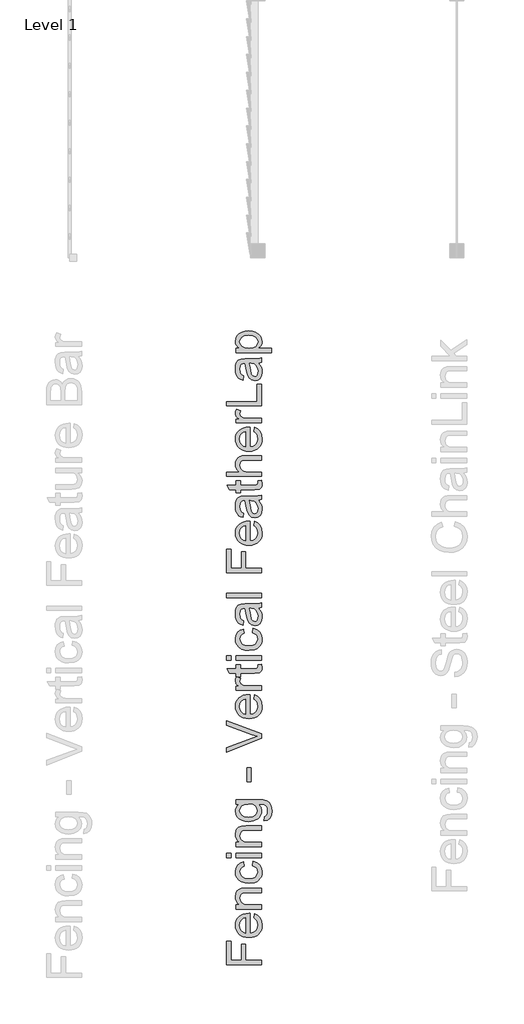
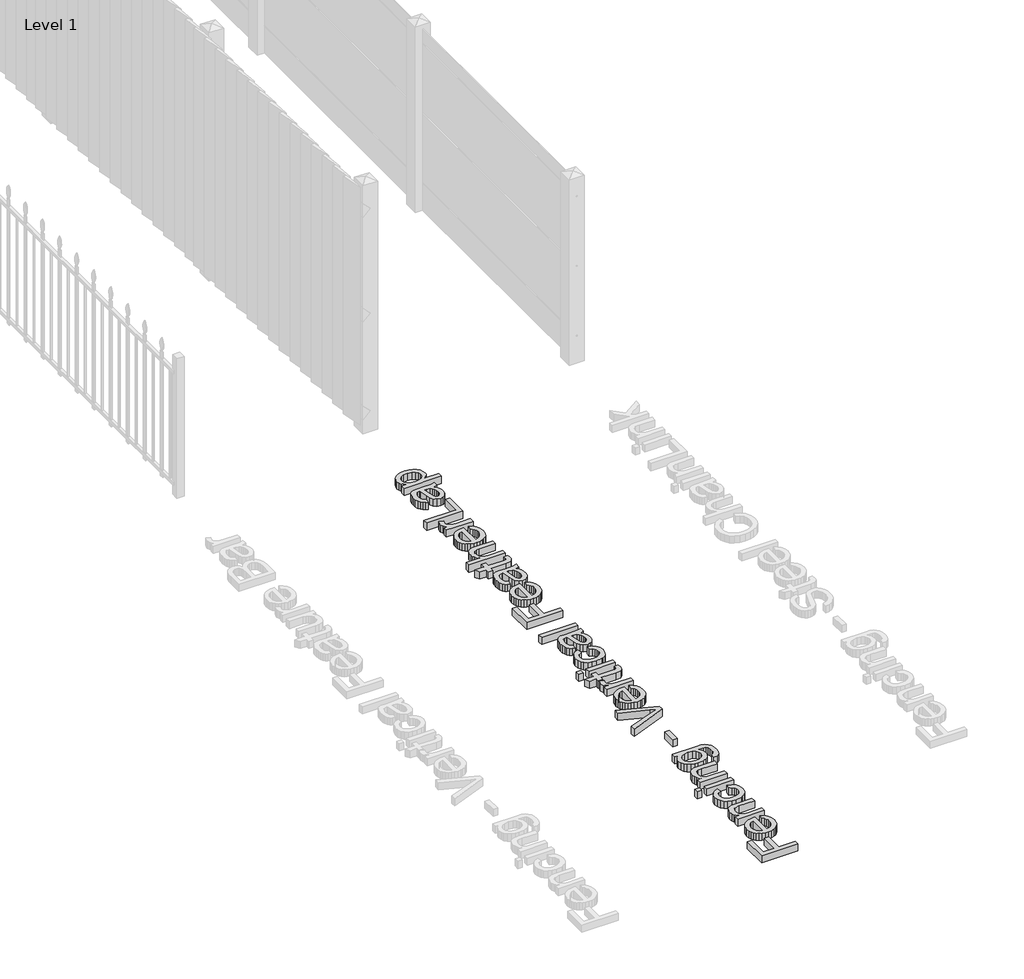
# One storey, part 4 of 7: 1 proxy.
"""IFC4 building model written with IfcOpenShell, lengths in millimetres."""

from ifc_helpers import new_model, si_unit, origin, origin_with_axes, place, context, project, spatial, polyline, outline, extrude, element, save

model = new_model("IFC4")

# Units and contexts
model_context = context("Model", 3, world=origin())
ifc_project = project(units=[si_unit("LENGTHUNIT", "METRE", prefix="MILLI")], contexts=[model_context])

# Site, building, storey
site = spatial("IfcSite", under=ifc_project)
building = spatial("IfcBuilding", under=site)
storey = spatial("IfcBuildingStorey", under=building, Name="Level 1", Elevation=0.0)

# Proxy
placement = place(None, origin())
element("IfcBuildingElementProxy", 1, Name="250mm Arial", ObjectType="250mm Arial", at=placement, inside=storey, context=model_context, shape_type="SweptSolid", body=[
    extrude(outline(polyline([(47525.2373714, -61450.7813985), (47279.0835253, -61450.7813985), (47279.0835253, -61285.3967831), (47309.852756, -61285.3967831), (47309.852756, -61420.0121677), (47382.9296791, -61420.0121677), (47382.9296791, -61304.6275523), (47413.6989099, -61304.6275523), (47413.6989099, -61420.0121677), (47525.2373714, -61420.0121677), (47525.2373714, -61450.7813985)])), origin_with_axes(), (0.0, 0.0, 1.0), 50.8),
    extrude(outline(polyline([(47471.3912176, -61120.3727446), (47475.2373714, -61090.2044754), (47497.9687416, -61101.0743672), (47514.9609291, -61118.4196196), (47525.5528762, -61141.8496076), (47529.0835253, -61170.9737062), (47527.5604634, -61190.0655031), (47522.9912777, -61207.0764706), (47515.3759682, -61222.0066088), (47504.7145349, -61234.8559177), (47491.3037026, -61245.1887002), (47475.440196, -61252.5692591), (47457.1240151, -61256.9975944), (47436.3551599, -61258.4737062), (47414.8820529, -61256.9825704), (47395.9555205, -61252.5091629), (47379.5755625, -61245.0534838), (47365.7421791, -61234.6155331), (47354.752095, -61221.8000283), (47346.9020349, -61207.211687), (47342.1919988, -61190.8505091), (47340.6219868, -61172.7164946), (47342.1882428, -61155.1665397), (47346.8870109, -61139.2955211), (47354.7182909, -61125.1034388), (47365.682083, -61112.5902927), (47379.4854183, -61102.3758246), (47395.8353282, -61095.0797759), (47414.7318125, -61090.7021467), (47436.1748714, -61089.242937), (47444.4681407, -61089.4232254), (47444.4681407, -61227.7044754), (47467.4999916, -61222.3784538), (47484.432083, -61210.0061581), (47494.8437416, -61192.1500884), (47498.3142945, -61170.3727446), (47496.7067224, -61153.9965427), (47491.884006, -61140.2044754), (47483.5456647, -61128.9965427), (47471.3912176, -61120.3727446)]), holes=[polyline([(47413.6989099, -61227.7044754), (47413.6989099, -61120.0121677), (47397.4429003, -61124.1738264), (47385.8142945, -61132.3318793), (47374.9969868, -61150.2705812), (47371.3912176, -61172.836687), (47374.268321, -61193.577372), (47382.899631, -61210.727312), (47396.3536575, -61222.6488865), (47413.6989099, -61227.7044754)])]), origin_with_axes(), (0.0, 0.0, 1.0), 50.8),
    extrude(outline(polyline([(47525.2373714, -61058.4737062), (47344.4681407, -61058.4737062), (47344.4681407, -61027.7044754), (47369.7085253, -61027.7044754), (47356.9831647, -61017.014872), (47347.8936214, -61004.1768312), (47342.4398955, -60989.1903528), (47340.6219868, -60972.055437), (47346.4813618, -60942.9989466), (47353.2572032, -60931.4154129), (47361.8659772, -60923.1672158), (47384.4921791, -60913.9424562), (47414.2397753, -60912.31986), (47525.2373714, -60912.31986), (47525.2373714, -60943.0890908), (47418.3864099, -60943.0890908), (47391.1628522, -60946.6347639), (47383.0573835, -60951.5401124), (47376.7698234, -60959.164812), (47371.3912176, -60980.28861), (47374.4110493, -60998.3099442), (47383.4705445, -61013.6720235), (47400.9735493, -61024.1963624), (47429.3239099, -61027.7044754), (47525.2373714, -61027.7044754), (47525.2373714, -61058.4737062)])), origin_with_axes(), (0.0, 0.0, 1.0), 50.8),
    extrude(outline(polyline([(47459.852756, -60754.6275523), (47463.6989099, -60723.8583216), (47491.065196, -60732.4370475), (47511.7457849, -60748.5578408), (47524.7490902, -60770.7032735), (47529.0835253, -60797.3559177), (47527.5717314, -60814.6129039), (47523.0363498, -60830.0857855), (47515.4773804, -60843.7745626), (47504.8948234, -60855.679235), (47491.487747, -60865.3152777), (47475.45522, -60872.1981653), (47435.5138137, -60877.7044754), (47408.1325036, -60875.3532134), (47384.4020349, -60868.2994273), (47365.2388738, -60856.430437), (47351.5594868, -60839.633562), (47343.3563618, -60819.5389105), (47340.6219868, -60797.7765908), (47344.3779964, -60771.7774922), (47355.6460253, -60750.991735), (47373.8251118, -60736.0803769), (47398.3142945, -60727.7044754), (47402.1604484, -60758.4737062), (47388.73647, -60764.0551365), (47379.1135734, -60772.7465427), (47373.3218065, -60784.0671557), (47371.3912176, -60797.5362062), (47375.1922993, -60817.4205211), (47386.5955445, -60833.2032735), (47406.2169387, -60843.5022519), (47434.6724676, -60846.9352446), (47463.5111094, -60843.577372), (47483.2001118, -60833.5037543), (47494.5357488, -60818.0064586), (47498.3142945, -60798.3775523), (47495.9555205, -60782.4445595), (47488.8791984, -60769.3811581), (47476.9050397, -60759.8784538), (47459.852756, -60754.6275523)])), origin_with_axes(), (0.0, 0.0, 1.0), 50.8),
    extrude(outline(polyline([(47309.852756, -60696.9352446), (47279.0835253, -60696.9352446), (47279.0835253, -60666.1660139), (47309.852756, -60666.1660139), (47309.852756, -60696.9352446)])), origin_with_axes(), (0.0, 0.0, 1.0), 50.8),
    extrude(outline(polyline([(47525.2373714, -60696.9352446), (47344.4681407, -60696.9352446), (47344.4681407, -60666.1660139), (47525.2373714, -60666.1660139), (47525.2373714, -60696.9352446)])), origin_with_axes(), (0.0, 0.0, 1.0), 50.8),
    extrude(outline(polyline([(47525.2373714, -60620.0121677), (47344.4681407, -60620.0121677), (47344.4681407, -60589.242937), (47369.7085253, -60589.242937), (47356.9831647, -60578.5533336), (47347.8936214, -60565.7152927), (47342.4398955, -60550.7288144), (47340.6219868, -60533.5938985), (47346.4813618, -60504.5374081), (47353.2572032, -60492.9538745), (47361.8659772, -60484.7056773), (47384.4921791, -60475.4809177), (47414.2397753, -60473.8583216), (47525.2373714, -60473.8583216), (47525.2373714, -60504.6275523), (47418.3864099, -60504.6275523), (47391.1628522, -60508.1732254), (47383.0573835, -60513.078574), (47376.7698234, -60520.7032735), (47371.3912176, -60541.8270716), (47374.4110493, -60559.8484057), (47383.4705445, -60575.210485), (47400.9735493, -60585.734824), (47429.3239099, -60589.242937), (47525.2373714, -60589.242937), (47525.2373714, -60620.0121677)])), origin_with_axes(), (0.0, 0.0, 1.0), 50.8),
    extrude(outline(polyline([(47540.6219868, -60439.242937), (47544.4681407, -60408.4737062), (47554.0835253, -60405.0782735), (47560.6941022, -60398.4977446), (47565.8323234, -60385.5620475), (47567.5450637, -60368.6299562), (47565.6069628, -60350.571062), (47559.7926599, -60337.1395716), (47550.477756, -60327.8246677), (47538.0378522, -60322.1155331), (47502.1604484, -60320.0121677), (47519.4681407, -60341.6768312), (47525.2373714, -60368.0890908), (47523.5584351, -60384.959208), (47518.5216262, -60399.812348), (47510.1269447, -60412.6485109), (47498.3743907, -60423.4676966), (47468.837131, -60438.1837422), (47433.9513137, -60443.0890908), (47409.1090661, -60440.8880692), (47386.2650157, -60434.2850043), (47366.9065421, -60423.5127687), (47352.5210253, -60408.804235), (47343.5967464, -60390.6627086), (47340.6219868, -60369.5914946), (47342.3046791, -60355.2022218), (47347.352756, -60342.1425764), (47355.7662176, -60330.4125583), (47367.5450637, -60320.0121677), (47344.4681407, -60320.0121677), (47344.4681407, -60289.242937), (47500.5378522, -60289.242937), (47536.5730085, -60291.3463023), (47560.3034772, -60297.6563985), (47576.0411575, -60308.5262903), (47588.0979484, -60324.3090427), (47595.760208, -60344.6591028), (47598.3142945, -60369.2309177), (47594.7160373, -60397.859223), (47583.9212657, -60420.4027927), (47565.8999315, -60434.8634297), (47540.6219868, -60439.242937)]), holes=[polyline([(47431.8479484, -60412.31986), (47460.0706046, -60409.0371076), (47479.4741503, -60399.1888504), (47490.7196431, -60384.3826605), (47494.4681407, -60366.22611), (47490.7421791, -60348.2047759), (47479.5642945, -60333.3234658), (47460.4086455, -60323.3399922), (47432.7493907, -60320.0121677), (47406.0742104, -60323.4376485), (47386.8659772, -60333.7140908), (47375.2599075, -60348.8132495), (47371.3912176, -60366.7068793), (47375.1998113, -60384.2774922), (47386.6255926, -60399.008562), (47405.548369, -60408.9920355), (47431.8479484, -60412.31986)])]), origin_with_axes(), (0.0, 0.0, 1.0), 50.8),
    extrude(outline(polyline([(47452.1604484, -60162.31986), (47421.3912176, -60162.31986), (47421.3912176, -60066.1660139), (47452.1604484, -60066.1660139), (47452.1604484, -60162.31986)])), origin_with_axes(), (0.0, 0.0, 1.0), 50.8),
    extrude(outline(polyline([(47525.2373714, -59858.8342831), (47279.0835253, -59956.7910139), (47279.0835253, -59923.8583216), (47456.4272753, -59858.2934177), (47496.3912176, -59845.0121677), (47456.4272753, -59831.9112062), (47279.0835253, -59766.1660139), (47279.0835253, -59733.2333216), (47525.2373714, -59827.0434177), (47525.2373714, -59858.8342831)])), origin_with_axes(), (0.0, 0.0, 1.0), 50.8),
    extrude(outline(polyline([(47471.3912176, -59581.9112062), (47475.2373714, -59551.742937), (47497.9687416, -59562.6128288), (47514.9609291, -59579.9580812), (47525.5528762, -59603.3880692), (47529.0835253, -59632.5121677), (47527.5604634, -59651.6039646), (47522.9912777, -59668.6149321), (47515.3759682, -59683.5450704), (47504.7145349, -59696.3943793), (47491.3037026, -59706.7271617), (47475.440196, -59714.1077206), (47457.1240151, -59718.5360559), (47436.3551599, -59720.0121677), (47414.8820529, -59718.5210319), (47395.9555205, -59714.0476245), (47379.5755625, -59706.5919454), (47365.7421791, -59696.1539946), (47354.752095, -59683.3384898), (47346.9020349, -59668.7501485), (47342.1919988, -59652.3889706), (47340.6219868, -59634.2549562), (47342.1882428, -59616.7050013), (47346.8870109, -59600.8339826), (47354.7182909, -59586.6419003), (47365.682083, -59574.1287543), (47379.4854183, -59563.9142861), (47395.8353282, -59556.6182374), (47414.7318125, -59552.2406082), (47436.1748714, -59550.7813985), (47444.4681407, -59550.961687), (47444.4681407, -59689.242937), (47467.4999916, -59683.9169153), (47484.432083, -59671.5446196), (47494.8437416, -59653.6885499), (47498.3142945, -59631.9112062), (47496.7067224, -59615.5350043), (47491.884006, -59601.742937), (47483.5456647, -59590.5350043), (47471.3912176, -59581.9112062)]), holes=[polyline([(47413.6989099, -59689.242937), (47413.6989099, -59581.5506293), (47397.4429003, -59585.7122879), (47385.8142945, -59593.8703408), (47374.9969868, -59611.8090427), (47371.3912176, -59634.3751485), (47374.268321, -59655.1158336), (47382.899631, -59672.2657735), (47396.3536575, -59684.187348), (47413.6989099, -59689.242937)])]), origin_with_axes(), (0.0, 0.0, 1.0), 50.8),
    extrude(outline(polyline([(47525.2373714, -59520.0121677), (47344.4681407, -59520.0121677), (47344.4681407, -59493.0890908), (47371.2109291, -59493.0890908), (47355.7061214, -59483.1431773), (47346.571506, -59473.9785139), (47340.6219868, -59454.7477446), (47342.9957849, -59439.4232254), (47350.1171791, -59423.8583216), (47377.7013137, -59434.1347639), (47371.3912176, -59455.7693793), (47372.9086455, -59464.9565788), (47377.4609291, -59473.1672158), (47394.2878522, -59484.2549562), (47430.2253522, -59489.242937), (47525.2373714, -59489.242937), (47525.2373714, -59520.0121677)])), origin_with_axes(), (0.0, 0.0, 1.0), 50.8),
    extrude(outline(polyline([(47499.5763137, -59339.242937), (47526.1388137, -59335.3967831), (47529.0835253, -59358.41361), (47527.806482, -59373.1822398), (47523.9753522, -59384.19486), (47510.5739099, -59397.055437), (47475.6580445, -59400.7813985), (47375.2373714, -59400.7813985), (47375.2373714, -59423.8583216), (47344.4681407, -59423.8583216), (47344.4681407, -59400.7813985), (47300.5378522, -59400.7813985), (47282.4489099, -59370.0121677), (47344.4681407, -59370.0121677), (47344.4681407, -59339.242937), (47375.2373714, -59339.242937), (47375.2373714, -59370.0121677), (47474.7566022, -59370.0121677), (47490.6219868, -59368.3895716), (47496.2409772, -59363.1311581), (47498.3142945, -59352.6443793), (47499.5763137, -59339.242937)])), origin_with_axes(), (0.0, 0.0, 1.0), 50.8),
    extrude(outline(polyline([(47309.852756, -59308.4737062), (47279.0835253, -59308.4737062), (47279.0835253, -59277.7044754), (47309.852756, -59277.7044754), (47309.852756, -59308.4737062)])), origin_with_axes(), (0.0, 0.0, 1.0), 50.8),
    extrude(outline(polyline([(47525.2373714, -59308.4737062), (47344.4681407, -59308.4737062), (47344.4681407, -59277.7044754), (47525.2373714, -59277.7044754), (47525.2373714, -59308.4737062)])), origin_with_axes(), (0.0, 0.0, 1.0), 50.8),
    extrude(outline(polyline([(47459.852756, -59116.1660139), (47463.6989099, -59085.3967831), (47491.065196, -59093.9755091), (47511.7457849, -59110.0963023), (47524.7490902, -59132.241735), (47529.0835253, -59158.8943793), (47527.5717314, -59176.1513654), (47523.0363498, -59191.624247), (47515.4773804, -59205.3130241), (47504.8948234, -59217.2176966), (47491.487747, -59226.8537392), (47475.45522, -59233.7366269), (47435.5138137, -59239.242937), (47408.1325036, -59236.8916749), (47384.4020349, -59229.8378889), (47365.2388738, -59217.9688985), (47351.5594868, -59201.1720235), (47343.3563618, -59181.077372), (47340.6219868, -59159.3150523), (47344.3779964, -59133.3159538), (47355.6460253, -59112.5301966), (47373.8251118, -59097.6188384), (47398.3142945, -59089.242937), (47402.1604484, -59120.0121677), (47388.73647, -59125.593598), (47379.1135734, -59134.2850043), (47373.3218065, -59145.6056172), (47371.3912176, -59159.0746677), (47375.1922993, -59178.9589826), (47386.5955445, -59194.741735), (47406.2169387, -59205.0407134), (47434.6724676, -59208.4737062), (47463.5111094, -59205.1158336), (47483.2001118, -59195.0422158), (47494.5357488, -59179.5449201), (47498.3142945, -59159.9160139), (47495.9555205, -59143.9830211), (47488.8791984, -59130.9196196), (47476.9050397, -59121.4169153), (47459.852756, -59116.1660139)])), origin_with_axes(), (0.0, 0.0, 1.0), 50.8),
    extrude(outline(polyline([(47502.1604484, -58943.0890908), (47514.7656166, -58957.7901124), (47523.0138137, -58972.9268312), (47527.5660974, -58988.8447999), (47529.0835253, -59005.8895716), (47525.4326839, -59031.6032134), (47514.4801599, -59050.571062), (47497.8485493, -59062.2672759), (47477.1604484, -59066.1660139), (47452.821506, -59060.2765908), (47435.1532368, -59044.8018312), (47425.057083, -59023.25736), (47420.4296791, -58996.6347639), (47409.852756, -58943.2693793), (47403.0017945, -58943.0890908), (47389.2698234, -58945.2074802), (47380.2854484, -58951.5626485), (47373.6147753, -58965.7753889), (47371.3912176, -58985.5770716), (47372.8710854, -59003.9063985), (47377.3106887, -59016.7068793), (47385.5213258, -59025.4358456), (47398.3142945, -59031.5506293), (47394.4681407, -59062.31986), (47377.6412176, -59056.9788144), (47364.4200637, -59049.008562), (47354.3088859, -59037.6654129), (47346.8118907, -59022.2056773), (47342.1694628, -59003.2979249), (47340.6219868, -58981.6107254), (47341.9891743, -58960.8099442), (47346.0907368, -58944.321062), (47352.2581046, -58931.8886701), (47359.822708, -58923.25736), (47380.7061214, -58913.8222639), (47407.6291984, -58912.31986), (47445.9104484, -58912.31986), (47499.3659772, -58910.75736), (47525.2373714, -58904.6275523), (47525.2373714, -58935.3967831), (47502.1604484, -58943.0890908)]), holes=[polyline([(47440.6219868, -58943.0890908), (47450.057083, -58992.7285139), (47455.0450637, -59019.2008696), (47463.1580445, -59031.1900523), (47474.9969868, -59035.3967831), (47484.1466262, -59033.1056172), (47491.6436214, -59026.2321196), (47496.6466262, -59014.9265307), (47498.3142945, -58999.3390908), (47496.4738498, -58982.8126485), (47490.9525157, -58968.2092831), (47482.8169988, -58956.3703408), (47473.134006, -58948.1371677), (47449.3359291, -58943.2693793), (47440.6219868, -58943.0890908)])]), origin_with_axes(), (0.0, 0.0, 1.0), 50.8),
    extrude(outline(polyline([(47525.2373714, -58870.0121677), (47279.0835253, -58870.0121677), (47279.0835253, -58839.242937), (47525.2373714, -58839.242937), (47525.2373714, -58870.0121677)])), origin_with_axes(), (0.0, 0.0, 1.0), 50.8),
    extrude(outline(polyline([(47525.2373714, -58693.0890908), (47279.0835253, -58693.0890908), (47279.0835253, -58527.7044754), (47309.852756, -58527.7044754), (47309.852756, -58662.31986), (47382.9296791, -58662.31986), (47382.9296791, -58546.9352446), (47413.6989099, -58546.9352446), (47413.6989099, -58662.31986), (47525.2373714, -58662.31986), (47525.2373714, -58693.0890908)])), origin_with_axes(), (0.0, 0.0, 1.0), 50.8),
    extrude(outline(polyline([(47471.3912176, -58362.680437), (47475.2373714, -58332.5121677), (47497.9687416, -58343.3820595), (47514.9609291, -58360.727312), (47525.5528762, -58384.1572999), (47529.0835253, -58413.2813985), (47527.5604634, -58432.3731954), (47522.9912777, -58449.3841629), (47515.3759682, -58464.3143011), (47504.7145349, -58477.16361), (47491.3037026, -58487.4963925), (47475.440196, -58494.8769514), (47457.1240151, -58499.3052867), (47436.3551599, -58500.7813985), (47414.8820529, -58499.2902627), (47395.9555205, -58494.8168552), (47379.5755625, -58487.3611761), (47365.7421791, -58476.9232254), (47354.752095, -58464.1077206), (47346.9020349, -58449.5193793), (47342.1919988, -58433.1582014), (47340.6219868, -58415.024187), (47342.1882428, -58397.474232), (47346.8870109, -58381.6032134), (47354.7182909, -58367.4111311), (47365.682083, -58354.897985), (47379.4854183, -58344.6835169), (47395.8353282, -58337.3874682), (47414.7318125, -58333.009839), (47436.1748714, -58331.5506293), (47444.4681407, -58331.7309177), (47444.4681407, -58470.0121677), (47467.4999916, -58464.6861461), (47484.432083, -58452.3138504), (47494.8437416, -58434.4577807), (47498.3142945, -58412.680437), (47496.7067224, -58396.304235), (47491.884006, -58382.5121677), (47483.5456647, -58371.304235), (47471.3912176, -58362.680437)]), holes=[polyline([(47413.6989099, -58470.0121677), (47413.6989099, -58362.31986), (47397.4429003, -58366.4815187), (47385.8142945, -58374.6395716), (47374.9969868, -58392.5782735), (47371.3912176, -58415.1443793), (47374.268321, -58435.8850644), (47382.899631, -58453.0350043), (47396.3536575, -58464.9565788), (47413.6989099, -58470.0121677)])]), origin_with_axes(), (0.0, 0.0, 1.0), 50.8),
    extrude(outline(polyline([(47502.1604484, -58185.3967831), (47514.7656166, -58200.0978047), (47523.0138137, -58215.2345235), (47527.5660974, -58231.1524922), (47529.0835253, -58248.1972639), (47525.4326839, -58273.9109057), (47514.4801599, -58292.8787543), (47497.8485493, -58304.5749682), (47477.1604484, -58308.4737062), (47452.821506, -58302.5842831), (47435.1532368, -58287.1095235), (47425.057083, -58265.5650523), (47420.4296791, -58238.9424562), (47409.852756, -58185.5770716), (47403.0017945, -58185.3967831), (47389.2698234, -58187.5151725), (47380.2854484, -58193.8703408), (47373.6147753, -58208.0830812), (47371.3912176, -58227.8847639), (47372.8710854, -58246.2140908), (47377.3106887, -58259.0145716), (47385.5213258, -58267.7435379), (47398.3142945, -58273.8583216), (47394.4681407, -58304.6275523), (47377.6412176, -58299.2865067), (47364.4200637, -58291.3162543), (47354.3088859, -58279.9731052), (47346.8118907, -58264.5133696), (47342.1694628, -58245.6056172), (47340.6219868, -58223.9184177), (47341.9891743, -58203.1176365), (47346.0907368, -58186.6287543), (47352.2581046, -58174.1963624), (47359.822708, -58165.5650523), (47380.7061214, -58156.1299562), (47407.6291984, -58154.6275523), (47445.9104484, -58154.6275523), (47499.3659772, -58153.0650523), (47525.2373714, -58146.9352446), (47525.2373714, -58177.7044754), (47502.1604484, -58185.3967831)]), holes=[polyline([(47440.6219868, -58185.3967831), (47450.057083, -58235.0362062), (47455.0450637, -58261.508562), (47463.1580445, -58273.4977446), (47474.9969868, -58277.7044754), (47484.1466262, -58275.4133095), (47491.6436214, -58268.539812), (47496.6466262, -58257.234223), (47498.3142945, -58241.6467831), (47496.4738498, -58225.1203408), (47490.9525157, -58210.5169754), (47482.8169988, -58198.6780331), (47473.134006, -58190.44486), (47449.3359291, -58185.5770716), (47440.6219868, -58185.3967831)])]), origin_with_axes(), (0.0, 0.0, 1.0), 50.8),
    extrude(outline(polyline([(47499.5763137, -58046.9352446), (47526.1388137, -58043.0890908), (47529.0835253, -58066.1059177), (47527.806482, -58080.8745475), (47523.9753522, -58091.8871677), (47510.5739099, -58104.7477446), (47475.6580445, -58108.4737062), (47375.2373714, -58108.4737062), (47375.2373714, -58131.5506293), (47344.4681407, -58131.5506293), (47344.4681407, -58108.4737062), (47300.5378522, -58108.4737062), (47282.4489099, -58077.7044754), (47344.4681407, -58077.7044754), (47344.4681407, -58046.9352446), (47375.2373714, -58046.9352446), (47375.2373714, -58077.7044754), (47474.7566022, -58077.7044754), (47490.6219868, -58076.0818793), (47496.2409772, -58070.8234658), (47498.3142945, -58060.336687), (47499.5763137, -58046.9352446)])), origin_with_axes(), (0.0, 0.0, 1.0), 50.8),
    extrude(outline(polyline([(47525.2373714, -58016.1660139), (47279.0835253, -58016.1660139), (47279.0835253, -57985.3967831), (47369.588333, -57985.3967831), (47356.9155565, -57974.0949502), (47347.8635734, -57961.4033937), (47342.4323835, -57947.3221136), (47340.6219868, -57931.85111), (47342.5976479, -57913.2663745), (47348.524631, -57897.2958216), (47357.9371911, -57884.7207014), (47370.369583, -57876.3222639), (47387.4519147, -57871.5896918), (47410.8142945, -57870.0121677), (47525.2373714, -57870.0121677), (47525.2373714, -57900.7813985), (47413.9993907, -57900.7813985), (47394.7385734, -57903.2303168), (47381.5474676, -57910.5770716), (47373.9302801, -57922.4160139), (47371.3912176, -57938.3414946), (47373.103958, -57951.3447999), (47378.2421791, -57963.5518312), (47386.3100878, -57973.6630091), (47396.8118907, -57980.3787543), (47429.2037176, -57985.3967831), (47525.2373714, -57985.3967831), (47525.2373714, -58016.1660139)])), origin_with_axes(), (0.0, 0.0, 1.0), 50.8),
    extrude(outline(polyline([(47471.3912176, -57701.1419754), (47475.2373714, -57670.9737062), (47497.9687416, -57681.843598), (47514.9609291, -57699.1888504), (47525.5528762, -57722.6188384), (47529.0835253, -57751.742937), (47527.5604634, -57770.8347338), (47522.9912777, -57787.8457014), (47515.3759682, -57802.7758396), (47504.7145349, -57815.6251485), (47491.3037026, -57825.9579309), (47475.440196, -57833.3384898), (47457.1240151, -57837.7668252), (47436.3551599, -57839.242937), (47414.8820529, -57837.7518011), (47395.9555205, -57833.2783937), (47379.5755625, -57825.8227146), (47365.7421791, -57815.3847639), (47354.752095, -57802.5692591), (47346.9020349, -57787.9809177), (47342.1919988, -57771.6197398), (47340.6219868, -57753.4857254), (47342.1882428, -57735.9357705), (47346.8870109, -57720.0647519), (47354.7182909, -57705.8726695), (47365.682083, -57693.3595235), (47379.4854183, -57683.1450553), (47395.8353282, -57675.8490067), (47414.7318125, -57671.4713775), (47436.1748714, -57670.0121677), (47444.4681407, -57670.1924562), (47444.4681407, -57808.4737062), (47467.4999916, -57803.1476845), (47484.432083, -57790.7753889), (47494.8437416, -57772.9193192), (47498.3142945, -57751.1419754), (47496.7067224, -57734.7657735), (47491.884006, -57720.9737062), (47483.5456647, -57709.7657735), (47471.3912176, -57701.1419754)]), holes=[polyline([(47413.6989099, -57808.4737062), (47413.6989099, -57700.7813985), (47397.4429003, -57704.9430571), (47385.8142945, -57713.10111), (47374.9969868, -57731.039812), (47371.3912176, -57753.6059177), (47374.268321, -57774.3466028), (47382.899631, -57791.4965427), (47396.3536575, -57803.4181172), (47413.6989099, -57808.4737062)])]), origin_with_axes(), (0.0, 0.0, 1.0), 50.8),
    extrude(outline(polyline([(47525.2373714, -57639.242937), (47344.4681407, -57639.242937), (47344.4681407, -57612.31986), (47371.2109291, -57612.31986), (47355.7061214, -57602.3739466), (47346.571506, -57593.2092831), (47340.6219868, -57573.9785139), (47342.9957849, -57558.6539946), (47350.1171791, -57543.0890908), (47377.7013137, -57553.3655331), (47371.3912176, -57575.0001485), (47372.9086455, -57584.187348), (47377.4609291, -57592.397985), (47394.2878522, -57603.4857254), (47430.2253522, -57608.4737062), (47525.2373714, -57608.4737062), (47525.2373714, -57639.242937)])), origin_with_axes(), (0.0, 0.0, 1.0), 50.8),
    extrude(outline(polyline([(47525.2373714, -57520.0121677), (47279.0835253, -57520.0121677), (47279.0835253, -57489.242937), (47494.4681407, -57489.242937), (47494.4681407, -57366.1660139), (47525.2373714, -57366.1660139), (47525.2373714, -57520.0121677)])), origin_with_axes(), (0.0, 0.0, 1.0), 50.8),
    extrude(outline(polyline([(47502.1604484, -57220.0121677), (47514.7656166, -57234.7131894), (47523.0138137, -57249.8499081), (47527.5660974, -57265.7678769), (47529.0835253, -57282.8126485), (47525.4326839, -57308.5262903), (47514.4801599, -57327.4941389), (47497.8485493, -57339.1903528), (47477.1604484, -57343.0890908), (47452.821506, -57337.1996677), (47435.1532368, -57321.7249081), (47425.057083, -57300.180437), (47420.4296791, -57273.5578408), (47409.852756, -57220.1924562), (47403.0017945, -57220.0121677), (47389.2698234, -57222.1305571), (47380.2854484, -57228.4857254), (47373.6147753, -57242.6984658), (47371.3912176, -57262.5001485), (47372.8710854, -57280.8294754), (47377.3106887, -57293.6299562), (47385.5213258, -57302.3589225), (47398.3142945, -57308.4737062), (47394.4681407, -57339.242937), (47377.6412176, -57333.9018913), (47364.4200637, -57325.9316389), (47354.3088859, -57314.5884898), (47346.8118907, -57299.1287543), (47342.1694628, -57280.2210019), (47340.6219868, -57258.5338023), (47341.9891743, -57237.7330211), (47346.0907368, -57221.2441389), (47352.2581046, -57208.811747), (47359.822708, -57200.180437), (47380.7061214, -57190.7453408), (47407.6291984, -57189.242937), (47445.9104484, -57189.242937), (47499.3659772, -57187.680437), (47525.2373714, -57181.5506293), (47525.2373714, -57212.31986), (47502.1604484, -57220.0121677)]), holes=[polyline([(47440.6219868, -57220.0121677), (47450.057083, -57269.6515908), (47455.0450637, -57296.1239466), (47463.1580445, -57308.1131293), (47474.9969868, -57312.31986), (47484.1466262, -57310.0286942), (47491.6436214, -57303.1551966), (47496.6466262, -57291.8496076), (47498.3142945, -57276.2621677), (47496.4738498, -57259.7357254), (47490.9525157, -57245.13236), (47482.8169988, -57233.2934177), (47473.134006, -57225.0602446), (47449.3359291, -57220.1924562), (47440.6219868, -57220.0121677)])]), origin_with_axes(), (0.0, 0.0, 1.0), 50.8),
    extrude(outline(polyline([(47594.4681407, -57146.9352446), (47344.4681407, -57146.9352446), (47344.4681407, -57116.1660139), (47374.6364099, -57116.1660139), (47359.7550998, -57106.1299562), (47349.1255926, -57094.8919754), (47342.7478883, -57081.7910139), (47340.6219868, -57066.1660139), (47343.5967464, -57045.3577206), (47352.5210253, -57027.16361), (47366.853958, -57012.3499081), (47386.0546791, -57001.6828408), (47408.7259532, -56995.2375283), (47433.4705445, -56993.0890908), (47459.7851479, -56995.515473), (47483.3203041, -57002.7946196), (47502.8816022, -57014.6936581), (47517.274631, -57030.9797158), (47526.1313017, -57049.9475644), (47529.0835253, -57069.8919754), (47527.1078642, -57084.0371076), (47521.180881, -57096.664812), (47501.1989099, -57116.1660139), (47594.4681407, -57116.1660139), (47594.4681407, -57146.9352446)]), holes=[polyline([(47436.2950637, -57116.1660139), (47463.8791984, -57112.8381894), (47483.1700637, -57102.8547158), (47494.5282368, -57088.1236461), (47498.3142945, -57070.5530331), (47494.3930205, -57052.6969634), (47482.6291984, -57037.5902927), (47462.6322032, -57027.2913144), (47434.0114099, -57023.8583216), (47406.5775157, -57027.2086821), (47387.0162176, -57037.2597639), (47375.2974676, -57051.9682975), (47371.3912176, -57069.2910139), (47375.5453642, -57086.6813384), (47388.0078041, -57101.9532735), (47408.3879123, -57112.6128288), (47436.2950637, -57116.1660139)])]), origin_with_axes(), (0.0, 0.0, 1.0), 50.8),
])

save(model, "model.ifc")
